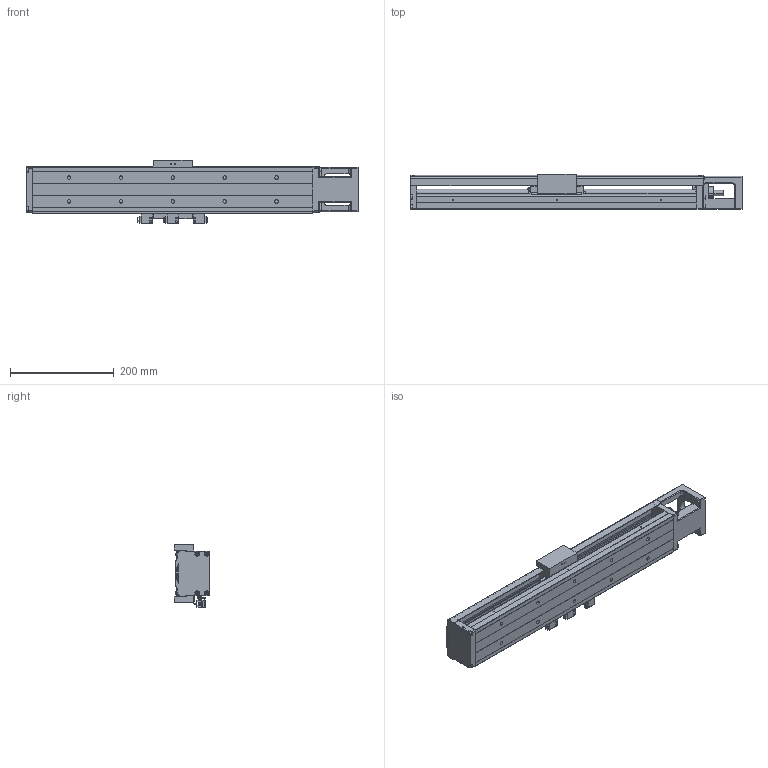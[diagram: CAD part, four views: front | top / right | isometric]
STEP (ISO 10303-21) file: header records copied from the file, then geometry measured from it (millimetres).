
FILE_DESCRIPTION (( 'STEP AP203' ), '1' );
FILE_NAME ('HKK86D20C-540A1-F0CS2.stp', '2021-11-30T03:00:24', ( '' ), ( '' ), 'SwSTEP 2.0', 'SolidWorks 2018', '' );
FILE_SCHEMA (( 'CONFIG_CONTROL_DESIGN' ));
Length unit declared in the file: millimetre
Products named in the file (1): HKK86D20C-540A1-F0CS2
Bounding box: 640 x 68 x 121.5 mm (x, y, z)
Volume: 1643210.3 mm3; surface area: 448398.4 mm2
Topology: 6 solids, 15 shells, 1353 faces, 3427 edges, 2172 vertices
Faces by surface type: plane 759, cylinder 423, cone 122, torus 32, sphere 9, bspline 8
Entity records: 40775 total; most frequent: CARTESIAN_POINT 8209, ORIENTED_EDGE 6730, DIRECTION 6721, EDGE_CURVE 3365, LINE 2267, VECTOR 2267, AXIS2_PLACEMENT_3D 2227, VERTEX_POINT 2168
